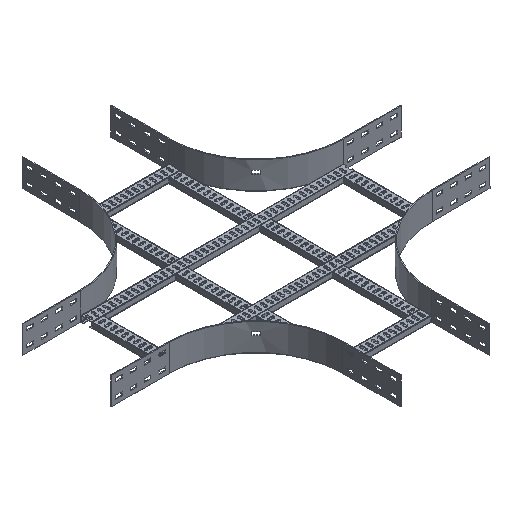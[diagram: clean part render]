
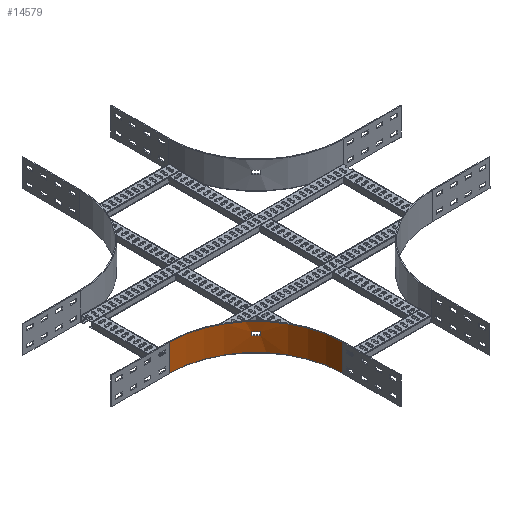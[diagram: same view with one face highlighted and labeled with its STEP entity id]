
A CAD part, isometric view. The second image highlights one B-rep face of the part: STEP entity #14579.
In plain terms, the highlighted cylindrical face has radius 300 mm (diameter 600 mm), a partial arc.
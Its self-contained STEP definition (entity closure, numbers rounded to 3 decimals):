
#403=FACE_BOUND('',#2109,.T.);
#687=CYLINDRICAL_SURFACE('',#15355,300.);
#732=CIRCLE('',#15347,300.);
#737=CIRCLE('',#15354,300.);
#738=CIRCLE('',#15356,300.);
#739=CIRCLE('',#15357,300.);
#1359=FACE_OUTER_BOUND('',#2108,.T.);
#2108=EDGE_LOOP('',(#9872,#9873,#9874,#9875));
#2109=EDGE_LOOP('',(#9876,#9877,#9878,#9879));
#3139=LINE('',#20323,#4679);
#3141=LINE('',#20329,#4681);
#3146=LINE('',#20353,#4686);
#3147=LINE('',#20356,#4687);
#4679=VECTOR('',#16519,304.8);
#4681=VECTOR('',#16523,304.8);
#4686=VECTOR('',#16550,304.8);
#4687=VECTOR('',#16553,304.8);
#6216=VERTEX_POINT('',#20316);
#6219=VERTEX_POINT('',#20321);
#6221=VERTEX_POINT('',#20326);
#6222=VERTEX_POINT('',#20328);
#6228=VERTEX_POINT('',#20349);
#6229=VERTEX_POINT('',#20350);
#6230=VERTEX_POINT('',#20352);
#6231=VERTEX_POINT('',#20354);
#7667=EDGE_CURVE('',#6219,#6216,#3139,.T.);
#7669=EDGE_CURVE('',#6221,#6222,#3141,.T.);
#7672=EDGE_CURVE('',#6216,#6221,#732,.T.);
#7679=EDGE_CURVE('',#6222,#6219,#737,.T.);
#7680=EDGE_CURVE('',#6228,#6229,#738,.T.);
#7681=EDGE_CURVE('',#6229,#6230,#3146,.T.);
#7682=EDGE_CURVE('',#6230,#6231,#739,.T.);
#7683=EDGE_CURVE('',#6231,#6228,#3147,.T.);
#9872=ORIENTED_EDGE('',*,*,#7667,.F.);
#9873=ORIENTED_EDGE('',*,*,#7679,.F.);
#9874=ORIENTED_EDGE('',*,*,#7669,.F.);
#9875=ORIENTED_EDGE('',*,*,#7672,.F.);
#9876=ORIENTED_EDGE('',*,*,#7680,.T.);
#9877=ORIENTED_EDGE('',*,*,#7681,.T.);
#9878=ORIENTED_EDGE('',*,*,#7682,.T.);
#9879=ORIENTED_EDGE('',*,*,#7683,.T.);
#14579=ADVANCED_FACE('',(#1359,#403),#687,.F.);
#15347=AXIS2_PLACEMENT_3D('',#20334,#16528,#16529);
#15354=AXIS2_PLACEMENT_3D('',#20347,#16544,#16545);
#15355=AXIS2_PLACEMENT_3D('',#20348,#16546,#16547);
#15356=AXIS2_PLACEMENT_3D('',#20351,#16548,#16549);
#15357=AXIS2_PLACEMENT_3D('',#20355,#16551,#16552);
#16519=DIRECTION('',(0.,0.,1.));
#16523=DIRECTION('',(0.,0.,-1.));
#16528=DIRECTION('center_axis',(0.,0.,-1.));
#16529=DIRECTION('ref_axis',(0.,1.,0.));
#16544=DIRECTION('center_axis',(0.,0.,1.));
#16545=DIRECTION('ref_axis',(0.,1.,0.));
#16546=DIRECTION('center_axis',(0.,0.,-1.));
#16547=DIRECTION('ref_axis',(0.,1.,0.));
#16548=DIRECTION('center_axis',(0.,0.,-1.));
#16549=DIRECTION('ref_axis',(0.,1.,0.));
#16550=DIRECTION('',(0.,0.,-1.));
#16551=DIRECTION('center_axis',(0.,0.,1.));
#16552=DIRECTION('ref_axis',(0.,1.,0.));
#16553=DIRECTION('',(0.,0.,1.));
#20316=CARTESIAN_POINT('',(-455.5,-155.5,47.));
#20321=CARTESIAN_POINT('',(-455.5,-155.5,-47.));
#20323=CARTESIAN_POINT('',(-455.5,-155.5,-47.));
#20326=CARTESIAN_POINT('',(-155.5,-455.5,47.));
#20328=CARTESIAN_POINT('',(-155.5,-455.5,-47.));
#20329=CARTESIAN_POINT('',(-155.5,-455.5,47.));
#20334=CARTESIAN_POINT('Origin',(-455.5,-455.5,47.));
#20347=CARTESIAN_POINT('Origin',(-455.5,-455.5,-47.));
#20348=CARTESIAN_POINT('Origin',(-455.5,-455.5,0.));
#20349=CARTESIAN_POINT('',(-251.26,-235.759,15.5));
#20350=CARTESIAN_POINT('',(-235.706,-251.318,15.5));
#20351=CARTESIAN_POINT('Origin',(-455.5,-455.5,15.5));
#20352=CARTESIAN_POINT('',(-235.706,-251.318,4.5));
#20353=CARTESIAN_POINT('',(-235.706,-251.318,15.5));
#20354=CARTESIAN_POINT('',(-251.26,-235.759,4.5));
#20355=CARTESIAN_POINT('Origin',(-455.5,-455.5,4.5));
#20356=CARTESIAN_POINT('',(-251.26,-235.759,4.5));
